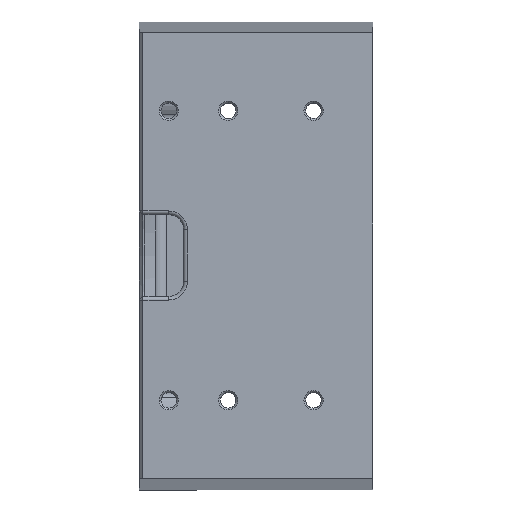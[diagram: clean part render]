
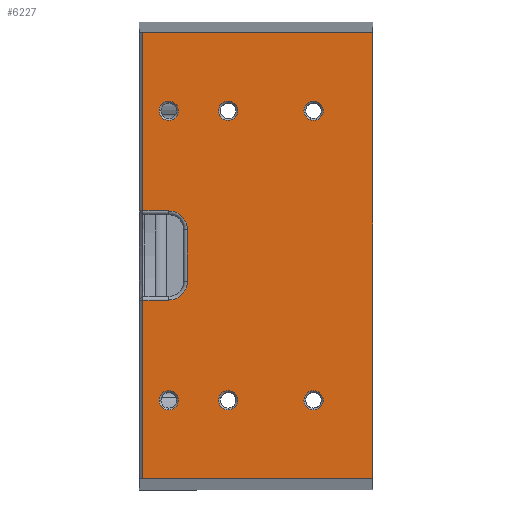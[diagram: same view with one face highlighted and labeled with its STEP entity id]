
A CAD part, top view. The second image highlights one B-rep face of the part: STEP entity #6227.
In plain terms, the highlighted planar face has unit normal (0, 0, 1).
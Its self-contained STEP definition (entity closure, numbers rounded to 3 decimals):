
#455=DIRECTION('',(0.,1.,0.));
#456=VECTOR('',#455,120.);
#457=CARTESIAN_POINT('',(63.,-60.,0.));
#458=LINE('',#457,#456);
#547=DIRECTION('',(-1.,0.,0.));
#548=VECTOR('',#547,62.);
#549=CARTESIAN_POINT('',(63.,-60.,0.));
#550=LINE('',#549,#548);
#551=CARTESIAN_POINT('',(8.,-7.,0.));
#552=DIRECTION('',(0.,0.,1.));
#553=DIRECTION('',(0.,-1.,0.));
#554=AXIS2_PLACEMENT_3D('',#551,#552,#553);
#556=CARTESIAN_POINT('',(8.,7.,0.));
#557=DIRECTION('',(0.,0.,1.));
#558=DIRECTION('',(1.,0.,0.));
#559=AXIS2_PLACEMENT_3D('',#556,#557,#558);
#561=CARTESIAN_POINT('',(47.,39.,0.));
#562=DIRECTION('',(0.,0.,-1.));
#563=DIRECTION('',(1.,0.,0.));
#564=AXIS2_PLACEMENT_3D('',#561,#562,#563);
#566=CARTESIAN_POINT('',(47.,39.,0.));
#567=DIRECTION('',(0.,0.,-1.));
#568=DIRECTION('',(-1.,0.,0.));
#569=AXIS2_PLACEMENT_3D('',#566,#567,#568);
#571=CARTESIAN_POINT('',(24.,39.,0.));
#572=DIRECTION('',(0.,0.,-1.));
#573=DIRECTION('',(-1.,0.,0.));
#574=AXIS2_PLACEMENT_3D('',#571,#572,#573);
#576=CARTESIAN_POINT('',(24.,39.,0.));
#577=DIRECTION('',(0.,0.,-1.));
#578=DIRECTION('',(1.,0.,0.));
#579=AXIS2_PLACEMENT_3D('',#576,#577,#578);
#581=CARTESIAN_POINT('',(8.,39.,0.));
#582=DIRECTION('',(0.,0.,-1.));
#583=DIRECTION('',(1.,0.,0.));
#584=AXIS2_PLACEMENT_3D('',#581,#582,#583);
#586=CARTESIAN_POINT('',(8.,39.,0.));
#587=DIRECTION('',(0.,0.,-1.));
#588=DIRECTION('',(-1.,0.,0.));
#589=AXIS2_PLACEMENT_3D('',#586,#587,#588);
#591=CARTESIAN_POINT('',(47.,-39.,0.));
#592=DIRECTION('',(0.,0.,-1.));
#593=DIRECTION('',(1.,0.,0.));
#594=AXIS2_PLACEMENT_3D('',#591,#592,#593);
#596=CARTESIAN_POINT('',(47.,-39.,0.));
#597=DIRECTION('',(0.,0.,-1.));
#598=DIRECTION('',(-1.,0.,0.));
#599=AXIS2_PLACEMENT_3D('',#596,#597,#598);
#601=CARTESIAN_POINT('',(24.,-39.,0.));
#602=DIRECTION('',(0.,0.,-1.));
#603=DIRECTION('',(1.,0.,0.));
#604=AXIS2_PLACEMENT_3D('',#601,#602,#603);
#606=CARTESIAN_POINT('',(24.,-39.,0.));
#607=DIRECTION('',(0.,0.,-1.));
#608=DIRECTION('',(-1.,0.,0.));
#609=AXIS2_PLACEMENT_3D('',#606,#607,#608);
#611=CARTESIAN_POINT('',(8.,-39.,0.));
#612=DIRECTION('',(0.,0.,-1.));
#613=DIRECTION('',(-1.,0.,0.));
#614=AXIS2_PLACEMENT_3D('',#611,#612,#613);
#616=CARTESIAN_POINT('',(8.,-39.,0.));
#617=DIRECTION('',(0.,0.,-1.));
#618=DIRECTION('',(1.,0.,0.));
#619=AXIS2_PLACEMENT_3D('',#616,#617,#618);
#621=DIRECTION('',(-1.,0.,0.));
#622=VECTOR('',#621,62.);
#623=CARTESIAN_POINT('',(63.,60.,0.));
#624=LINE('',#623,#622);
#1430=DIRECTION('',(0.,-1.,0.));
#1431=VECTOR('',#1430,48.);
#1432=CARTESIAN_POINT('',(1.,-12.,0.));
#1433=LINE('',#1432,#1431);
#1438=DIRECTION('',(-1.,0.,0.));
#1439=VECTOR('',#1438,7.);
#1440=CARTESIAN_POINT('',(8.,-12.,0.));
#1441=LINE('',#1440,#1439);
#1466=DIRECTION('',(1.,0.,0.));
#1467=VECTOR('',#1466,7.);
#1468=CARTESIAN_POINT('',(1.,12.,0.));
#1469=LINE('',#1468,#1467);
#1493=DIRECTION('',(0.,-1.,0.));
#1494=VECTOR('',#1493,14.);
#1495=CARTESIAN_POINT('',(13.,7.,0.));
#1496=LINE('',#1495,#1494);
#1635=DIRECTION('',(0.,-1.,0.));
#1636=VECTOR('',#1635,48.);
#1637=CARTESIAN_POINT('',(1.,60.,0.));
#1638=LINE('',#1637,#1636);
#4846=CARTESIAN_POINT('',(1.,12.,0.));
#4847=CARTESIAN_POINT('',(8.,12.,0.));
#4848=VERTEX_POINT('',#4846);
#4849=VERTEX_POINT('',#4847);
#4850=CARTESIAN_POINT('',(63.,60.,0.));
#4851=CARTESIAN_POINT('',(1.,60.,0.));
#4852=VERTEX_POINT('',#4850);
#4853=VERTEX_POINT('',#4851);
#4854=CARTESIAN_POINT('',(63.,-60.,0.));
#4855=VERTEX_POINT('',#4854);
#4856=CARTESIAN_POINT('',(1.,-60.,0.));
#4857=VERTEX_POINT('',#4856);
#4858=CARTESIAN_POINT('',(1.,-12.,0.));
#4859=VERTEX_POINT('',#4858);
#4860=CARTESIAN_POINT('',(8.,-12.,0.));
#4861=VERTEX_POINT('',#4860);
#4862=CARTESIAN_POINT('',(13.,-7.,0.));
#4863=VERTEX_POINT('',#4862);
#4864=CARTESIAN_POINT('',(13.,7.,0.));
#4865=VERTEX_POINT('',#4864);
#5721=CARTESIAN_POINT('',(49.6,39.,0.));
#5722=CARTESIAN_POINT('',(44.4,39.,0.));
#5723=VERTEX_POINT('',#5721);
#5724=VERTEX_POINT('',#5722);
#5729=CARTESIAN_POINT('',(21.4,39.,0.));
#5730=CARTESIAN_POINT('',(26.6,39.,0.));
#5731=VERTEX_POINT('',#5729);
#5732=VERTEX_POINT('',#5730);
#5737=CARTESIAN_POINT('',(10.6,39.,0.));
#5738=CARTESIAN_POINT('',(5.4,39.,0.));
#5739=VERTEX_POINT('',#5737);
#5740=VERTEX_POINT('',#5738);
#5745=CARTESIAN_POINT('',(49.6,-39.,0.));
#5746=CARTESIAN_POINT('',(44.4,-39.,0.));
#5747=VERTEX_POINT('',#5745);
#5748=VERTEX_POINT('',#5746);
#5753=CARTESIAN_POINT('',(26.6,-39.,0.));
#5754=CARTESIAN_POINT('',(21.4,-39.,0.));
#5755=VERTEX_POINT('',#5753);
#5756=VERTEX_POINT('',#5754);
#5761=CARTESIAN_POINT('',(5.4,-39.,0.));
#5762=CARTESIAN_POINT('',(10.6,-39.,0.));
#5763=VERTEX_POINT('',#5761);
#5764=VERTEX_POINT('',#5762);
#6166=CARTESIAN_POINT('',(63.002,0.,0.));
#6167=DIRECTION('',(0.,0.,1.));
#6168=DIRECTION('',(0.,-1.,0.));
#6169=AXIS2_PLACEMENT_3D('',#6166,#6167,#6168);
#6170=PLANE('',#6169);
#6172=ORIENTED_EDGE('',*,*,#6171,.F.);
#6173=ORIENTED_EDGE('',*,*,#6073,.F.);
#6174=ORIENTED_EDGE('',*,*,#6155,.T.);
#6176=ORIENTED_EDGE('',*,*,#6175,.F.);
#6178=ORIENTED_EDGE('',*,*,#6177,.F.);
#6180=ORIENTED_EDGE('',*,*,#6179,.T.);
#6182=ORIENTED_EDGE('',*,*,#6181,.F.);
#6184=ORIENTED_EDGE('',*,*,#6183,.T.);
#6186=ORIENTED_EDGE('',*,*,#6185,.F.);
#6188=ORIENTED_EDGE('',*,*,#6187,.F.);
#6189=EDGE_LOOP('',(#6172,#6173,#6174,#6176,#6178,#6180,#6182,#6184,#6186,
#6188));
#6190=FACE_OUTER_BOUND('',#6189,.F.);
#6192=ORIENTED_EDGE('',*,*,#6191,.F.);
#6194=ORIENTED_EDGE('',*,*,#6193,.F.);
#6195=EDGE_LOOP('',(#6192,#6194));
#6196=FACE_BOUND('',#6195,.F.);
#6198=ORIENTED_EDGE('',*,*,#6197,.F.);
#6200=ORIENTED_EDGE('',*,*,#6199,.F.);
#6201=EDGE_LOOP('',(#6198,#6200));
#6202=FACE_BOUND('',#6201,.F.);
#6204=ORIENTED_EDGE('',*,*,#6203,.F.);
#6206=ORIENTED_EDGE('',*,*,#6205,.F.);
#6207=EDGE_LOOP('',(#6204,#6206));
#6208=FACE_BOUND('',#6207,.F.);
#6210=ORIENTED_EDGE('',*,*,#6209,.F.);
#6212=ORIENTED_EDGE('',*,*,#6211,.F.);
#6213=EDGE_LOOP('',(#6210,#6212));
#6214=FACE_BOUND('',#6213,.F.);
#6216=ORIENTED_EDGE('',*,*,#6215,.F.);
#6218=ORIENTED_EDGE('',*,*,#6217,.F.);
#6219=EDGE_LOOP('',(#6216,#6218));
#6220=FACE_BOUND('',#6219,.F.);
#6222=ORIENTED_EDGE('',*,*,#6221,.F.);
#6224=ORIENTED_EDGE('',*,*,#6223,.F.);
#6225=EDGE_LOOP('',(#6222,#6224));
#6226=FACE_BOUND('',#6225,.F.);
#6227=ADVANCED_FACE('',(#6190,#6196,#6202,#6208,#6214,#6220,#6226),#6170,.T.);
#555=CIRCLE('',#554,5.);
#560=CIRCLE('',#559,5.);
#565=CIRCLE('',#564,2.6);
#570=CIRCLE('',#569,2.6);
#575=CIRCLE('',#574,2.6);
#580=CIRCLE('',#579,2.6);
#585=CIRCLE('',#584,2.6);
#590=CIRCLE('',#589,2.6);
#595=CIRCLE('',#594,2.6);
#600=CIRCLE('',#599,2.6);
#605=CIRCLE('',#604,2.6);
#610=CIRCLE('',#609,2.6);
#615=CIRCLE('',#614,2.6);
#620=CIRCLE('',#619,2.6);
#6073=EDGE_CURVE('',#4855,#4852,#458,.T.);
#6155=EDGE_CURVE('',#4855,#4857,#550,.T.);
#6171=EDGE_CURVE('',#4852,#4853,#624,.T.);
#6175=EDGE_CURVE('',#4859,#4857,#1433,.T.);
#6177=EDGE_CURVE('',#4861,#4859,#1441,.T.);
#6179=EDGE_CURVE('',#4861,#4863,#555,.T.);
#6181=EDGE_CURVE('',#4865,#4863,#1496,.T.);
#6183=EDGE_CURVE('',#4865,#4849,#560,.T.);
#6185=EDGE_CURVE('',#4848,#4849,#1469,.T.);
#6187=EDGE_CURVE('',#4853,#4848,#1638,.T.);
#6191=EDGE_CURVE('',#5723,#5724,#565,.T.);
#6193=EDGE_CURVE('',#5724,#5723,#570,.T.);
#6197=EDGE_CURVE('',#5731,#5732,#575,.T.);
#6199=EDGE_CURVE('',#5732,#5731,#580,.T.);
#6203=EDGE_CURVE('',#5739,#5740,#585,.T.);
#6205=EDGE_CURVE('',#5740,#5739,#590,.T.);
#6209=EDGE_CURVE('',#5747,#5748,#595,.T.);
#6211=EDGE_CURVE('',#5748,#5747,#600,.T.);
#6215=EDGE_CURVE('',#5755,#5756,#605,.T.);
#6217=EDGE_CURVE('',#5756,#5755,#610,.T.);
#6221=EDGE_CURVE('',#5763,#5764,#615,.T.);
#6223=EDGE_CURVE('',#5764,#5763,#620,.T.);
